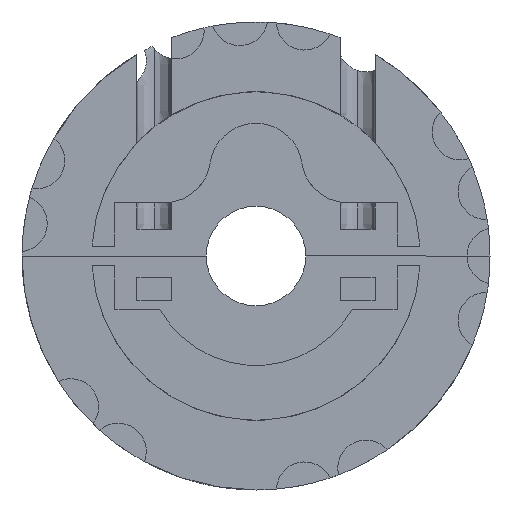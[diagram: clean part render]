
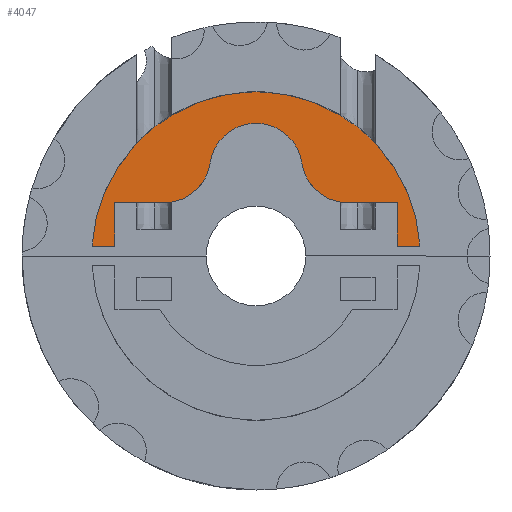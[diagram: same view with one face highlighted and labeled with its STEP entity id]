
A CAD part, left-side view. The second image highlights one B-rep face of the part: STEP entity #4047.
In plain terms, the highlighted planar face has unit normal (-1, 0, 0).
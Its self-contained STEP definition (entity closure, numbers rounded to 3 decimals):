
#1718=AXIS2_PLACEMENT_3D('Plane Axis2P3D',#1715,#1716,#1717) ;
#2816=AXIS2_PLACEMENT_3D('Circle Axis2P3D',#2814,#2815,$) ;
#3062=AXIS2_PLACEMENT_3D('Circle Axis2P3D',#3060,#3061,$) ;
#3081=AXIS2_PLACEMENT_3D('Circle Axis2P3D',#3079,#3080,$) ;
#3128=AXIS2_PLACEMENT_3D('Circle Axis2P3D',#3126,#3127,$) ;
#3364=AXIS2_PLACEMENT_3D('Circle Axis2P3D',#3362,#3363,$) ;
#1715=CARTESIAN_POINT('Axis2P3D Location',(-3.5,0.,0.)) ;
#2811=CARTESIAN_POINT('Vertex',(-3.5,49.409,3.)) ;
#2814=CARTESIAN_POINT('Axis2P3D Location',(-3.5,0.,0.)) ;
#2818=CARTESIAN_POINT('Vertex',(-3.5,0.,49.5)) ;
#2862=CARTESIAN_POINT('Vertex',(-3.5,42.5,3.)) ;
#2865=CARTESIAN_POINT('Line Origine',(-3.5,45.955,3.)) ;
#2881=CARTESIAN_POINT('Vertex',(-3.5,42.5,16.)) ;
#2884=CARTESIAN_POINT('Line Origine',(-3.5,42.5,9.5)) ;
#2914=CARTESIAN_POINT('Vertex',(-3.5,27.713,16.)) ;
#2917=CARTESIAN_POINT('Line Origine',(-3.5,35.106,16.)) ;
#3057=CARTESIAN_POINT('Vertex',(-3.5,13.856,28.)) ;
#3060=CARTESIAN_POINT('Axis2P3D Location',(-3.5,27.713,30.)) ;
#3079=CARTESIAN_POINT('Axis2P3D Location',(-3.5,0.,26.)) ;
#3083=CARTESIAN_POINT('Vertex',(-3.5,-13.856,28.)) ;
#3123=CARTESIAN_POINT('Vertex',(-3.5,-27.713,16.)) ;
#3126=CARTESIAN_POINT('Axis2P3D Location',(-3.5,-27.713,30.)) ;
#3243=CARTESIAN_POINT('Vertex',(-3.5,-42.5,16.)) ;
#3246=CARTESIAN_POINT('Line Origine',(-3.5,-35.106,16.)) ;
#3266=CARTESIAN_POINT('Line Origine',(-3.5,-42.5,9.5)) ;
#3270=CARTESIAN_POINT('Vertex',(-3.5,-42.5,3.)) ;
#3285=CARTESIAN_POINT('Line Origine',(-3.5,-45.955,3.)) ;
#3289=CARTESIAN_POINT('Vertex',(-3.5,-49.409,3.)) ;
#3362=CARTESIAN_POINT('Axis2P3D Location',(-3.5,0.,0.)) ;
#1716=DIRECTION('Axis2P3D Direction',(1.,0.,0.)) ;
#1717=DIRECTION('Axis2P3D XDirection',(0.,1.,0.)) ;
#2815=DIRECTION('Axis2P3D Direction',(1.,0.,-0.)) ;
#2866=DIRECTION('Vector Direction',(0.,1.,0.)) ;
#2885=DIRECTION('Vector Direction',(0.,0.,-1.)) ;
#2918=DIRECTION('Vector Direction',(0.,1.,0.)) ;
#3061=DIRECTION('Axis2P3D Direction',(1.,0.,0.)) ;
#3080=DIRECTION('Axis2P3D Direction',(1.,0.,0.)) ;
#3127=DIRECTION('Axis2P3D Direction',(1.,0.,0.)) ;
#3247=DIRECTION('Vector Direction',(0.,1.,0.)) ;
#3267=DIRECTION('Vector Direction',(0.,0.,1.)) ;
#3286=DIRECTION('Vector Direction',(0.,1.,0.)) ;
#3363=DIRECTION('Axis2P3D Direction',(1.,0.,-0.)) ;
#2867=VECTOR('Line Direction',#2866,1.) ;
#2886=VECTOR('Line Direction',#2885,1.) ;
#2919=VECTOR('Line Direction',#2918,1.) ;
#3248=VECTOR('Line Direction',#3247,1.) ;
#3268=VECTOR('Line Direction',#3267,1.) ;
#3287=VECTOR('Line Direction',#3286,1.) ;
#4035=ORIENTED_EDGE('',*,*,#2869,.F.) ;
#4036=ORIENTED_EDGE('',*,*,#2888,.T.) ;
#4037=ORIENTED_EDGE('',*,*,#2921,.T.) ;
#4038=ORIENTED_EDGE('',*,*,#3064,.T.) ;
#4039=ORIENTED_EDGE('',*,*,#3085,.T.) ;
#4040=ORIENTED_EDGE('',*,*,#3130,.T.) ;
#4041=ORIENTED_EDGE('',*,*,#3250,.T.) ;
#4042=ORIENTED_EDGE('',*,*,#3272,.T.) ;
#4043=ORIENTED_EDGE('',*,*,#3291,.F.) ;
#4044=ORIENTED_EDGE('',*,*,#3366,.F.) ;
#4045=ORIENTED_EDGE('',*,*,#2820,.F.) ;
#4047=ADVANCED_FACE('Body.7',(#4046),#1719,.F.) ;
#2817=CIRCLE('generated circle',#2816,49.5) ;
#3063=CIRCLE('generated circle',#3062,14.) ;
#3082=CIRCLE('generated circle',#3081,14.) ;
#3129=CIRCLE('generated circle',#3128,14.) ;
#3365=CIRCLE('generated circle',#3364,49.5) ;
#2820=EDGE_CURVE('',#2812,#2819,#2817,.T.) ;
#2869=EDGE_CURVE('',#2863,#2812,#2868,.T.) ;
#2888=EDGE_CURVE('',#2863,#2882,#2887,.F.) ;
#2921=EDGE_CURVE('',#2882,#2915,#2920,.F.) ;
#3064=EDGE_CURVE('',#2915,#3058,#3063,.F.) ;
#3085=EDGE_CURVE('',#3058,#3084,#3082,.T.) ;
#3130=EDGE_CURVE('',#3084,#3124,#3129,.F.) ;
#3250=EDGE_CURVE('',#3124,#3244,#3249,.F.) ;
#3272=EDGE_CURVE('',#3244,#3271,#3269,.F.) ;
#3291=EDGE_CURVE('',#3290,#3271,#3288,.T.) ;
#3366=EDGE_CURVE('',#2819,#3290,#3365,.T.) ;
#4034=EDGE_LOOP('',(#4035,#4036,#4037,#4038,#4039,#4040,#4041,#4042,#4043,#4044,#4045)) ;
#4046=FACE_OUTER_BOUND('',#4034,.T.) ;
#2868=LINE('Line',#2865,#2867) ;
#2887=LINE('Line',#2884,#2886) ;
#2920=LINE('Line',#2917,#2919) ;
#3249=LINE('Line',#3246,#3248) ;
#3269=LINE('Line',#3266,#3268) ;
#3288=LINE('Line',#3285,#3287) ;
#1719=PLANE('',#1718) ;
#2812=VERTEX_POINT('',#2811) ;
#2819=VERTEX_POINT('',#2818) ;
#2863=VERTEX_POINT('',#2862) ;
#2882=VERTEX_POINT('',#2881) ;
#2915=VERTEX_POINT('',#2914) ;
#3058=VERTEX_POINT('',#3057) ;
#3084=VERTEX_POINT('',#3083) ;
#3124=VERTEX_POINT('',#3123) ;
#3244=VERTEX_POINT('',#3243) ;
#3271=VERTEX_POINT('',#3270) ;
#3290=VERTEX_POINT('',#3289) ;
